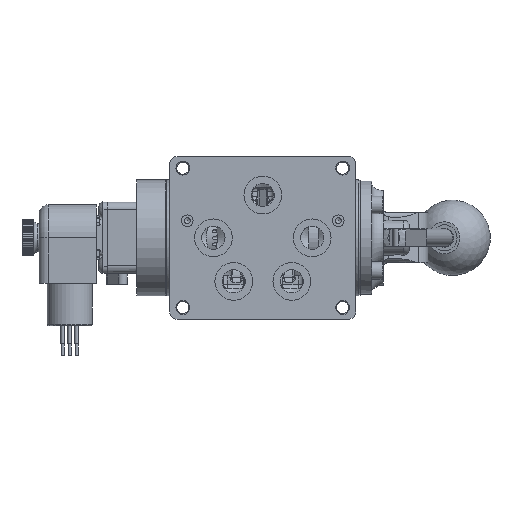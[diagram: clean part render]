
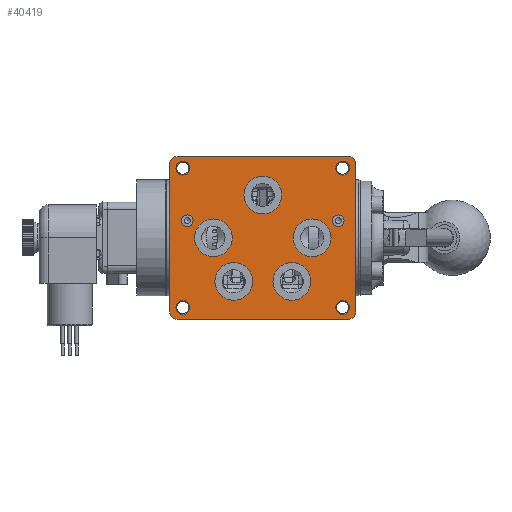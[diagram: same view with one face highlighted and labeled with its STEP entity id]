
A CAD part, front view. The second image highlights one B-rep face of the part: STEP entity #40419.
In plain terms, the highlighted planar face has unit normal (0, -1, 0).
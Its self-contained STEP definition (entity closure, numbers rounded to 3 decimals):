
#2462=FACE_BOUND('',#7745,.T.);
#2463=FACE_BOUND('',#7746,.T.);
#2464=FACE_BOUND('',#7747,.T.);
#2465=FACE_BOUND('',#7748,.T.);
#2466=FACE_BOUND('',#7749,.T.);
#2467=FACE_BOUND('',#7750,.T.);
#2468=FACE_BOUND('',#7751,.T.);
#2469=FACE_BOUND('',#7752,.T.);
#2470=FACE_BOUND('',#7753,.T.);
#2471=FACE_BOUND('',#7754,.T.);
#2472=FACE_BOUND('',#7755,.T.);
#3250=PLANE('',#44021);
#5249=FACE_OUTER_BOUND('',#7744,.T.);
#7744=EDGE_LOOP('',(#33242,#33243,#33244,#33245,#33246,#33247,#33248,#33249));
#7745=EDGE_LOOP('',(#33250));
#7746=EDGE_LOOP('',(#33251));
#7747=EDGE_LOOP('',(#33252));
#7748=EDGE_LOOP('',(#33253));
#7749=EDGE_LOOP('',(#33254));
#7750=EDGE_LOOP('',(#33255));
#7751=EDGE_LOOP('',(#33256));
#7752=EDGE_LOOP('',(#33257));
#7753=EDGE_LOOP('',(#33258));
#7754=EDGE_LOOP('',(#33259));
#7755=EDGE_LOOP('',(#33260));
#9580=CIRCLE('',#43468,0.397);
#9581=CIRCLE('',#43471,0.397);
#9802=CIRCLE('',#44016,0.397);
#9803=CIRCLE('',#44019,0.397);
#9804=CIRCLE('',#44022,0.318);
#9805=CIRCLE('',#44023,0.318);
#9806=CIRCLE('',#44024,1.031);
#9807=CIRCLE('',#44025,1.031);
#9808=CIRCLE('',#44026,1.031);
#9809=CIRCLE('',#44027,1.031);
#9810=CIRCLE('',#44028,1.031);
#9811=CIRCLE('',#44029,0.381);
#9812=CIRCLE('',#44030,0.381);
#9813=CIRCLE('',#44031,0.381);
#9814=CIRCLE('',#44032,0.381);
#11625=LINE('',#65736,#14042);
#11655=LINE('',#65991,#14072);
#12157=LINE('',#80144,#14574);
#12160=LINE('',#80151,#14577);
#14042=VECTOR('',#51211,1.);
#14072=VECTOR('',#51313,1.);
#14574=VECTOR('',#52911,1.);
#14577=VECTOR('',#52920,1.);
#17023=VERTEX_POINT('',#65734);
#17024=VERTEX_POINT('',#65735);
#17078=VERTEX_POINT('',#65984);
#17079=VERTEX_POINT('',#65985);
#17080=VERTEX_POINT('',#65990);
#17936=VERTEX_POINT('',#80139);
#17937=VERTEX_POINT('',#80143);
#17938=VERTEX_POINT('',#80147);
#17939=VERTEX_POINT('',#80153);
#17940=VERTEX_POINT('',#80155);
#17941=VERTEX_POINT('',#80157);
#17942=VERTEX_POINT('',#80159);
#17943=VERTEX_POINT('',#80161);
#17944=VERTEX_POINT('',#80163);
#17945=VERTEX_POINT('',#80165);
#17946=VERTEX_POINT('',#80167);
#17947=VERTEX_POINT('',#80169);
#17948=VERTEX_POINT('',#80171);
#17949=VERTEX_POINT('',#80173);
#21740=EDGE_CURVE('',#17023,#17024,#11625,.T.);
#21806=EDGE_CURVE('',#17078,#17079,#9580,.T.);
#21809=EDGE_CURVE('',#17079,#17080,#11655,.T.);
#21813=EDGE_CURVE('',#17080,#17023,#9581,.T.);
#23206=EDGE_CURVE('',#17024,#17936,#9802,.T.);
#23208=EDGE_CURVE('',#17936,#17937,#12157,.T.);
#23210=EDGE_CURVE('',#17937,#17938,#9803,.T.);
#23212=EDGE_CURVE('',#17938,#17078,#12160,.T.);
#23213=EDGE_CURVE('',#17939,#17939,#9804,.T.);
#23214=EDGE_CURVE('',#17940,#17940,#9805,.T.);
#23215=EDGE_CURVE('',#17941,#17941,#9806,.T.);
#23216=EDGE_CURVE('',#17942,#17942,#9807,.T.);
#23217=EDGE_CURVE('',#17943,#17943,#9808,.T.);
#23218=EDGE_CURVE('',#17944,#17944,#9809,.T.);
#23219=EDGE_CURVE('',#17945,#17945,#9810,.T.);
#23220=EDGE_CURVE('',#17946,#17946,#9811,.T.);
#23221=EDGE_CURVE('',#17947,#17947,#9812,.T.);
#23222=EDGE_CURVE('',#17948,#17948,#9813,.T.);
#23223=EDGE_CURVE('',#17949,#17949,#9814,.T.);
#33242=ORIENTED_EDGE('',*,*,#23206,.T.);
#33243=ORIENTED_EDGE('',*,*,#23208,.T.);
#33244=ORIENTED_EDGE('',*,*,#23210,.T.);
#33245=ORIENTED_EDGE('',*,*,#23212,.T.);
#33246=ORIENTED_EDGE('',*,*,#21806,.T.);
#33247=ORIENTED_EDGE('',*,*,#21809,.T.);
#33248=ORIENTED_EDGE('',*,*,#21813,.T.);
#33249=ORIENTED_EDGE('',*,*,#21740,.T.);
#33250=ORIENTED_EDGE('',*,*,#23213,.T.);
#33251=ORIENTED_EDGE('',*,*,#23214,.T.);
#33252=ORIENTED_EDGE('',*,*,#23215,.T.);
#33253=ORIENTED_EDGE('',*,*,#23216,.T.);
#33254=ORIENTED_EDGE('',*,*,#23217,.T.);
#33255=ORIENTED_EDGE('',*,*,#23218,.T.);
#33256=ORIENTED_EDGE('',*,*,#23219,.T.);
#33257=ORIENTED_EDGE('',*,*,#23220,.T.);
#33258=ORIENTED_EDGE('',*,*,#23221,.T.);
#33259=ORIENTED_EDGE('',*,*,#23222,.T.);
#33260=ORIENTED_EDGE('',*,*,#23223,.T.);
#40419=ADVANCED_FACE('',(#5249,#2462,#2463,#2464,#2465,#2466,#2467,#2468,
#2469,#2470,#2471,#2472),#3250,.T.);
#43468=AXIS2_PLACEMENT_3D('',#65986,#51307,#51308);
#43471=AXIS2_PLACEMENT_3D('',#65997,#51319,#51320);
#44016=AXIS2_PLACEMENT_3D('',#80140,#52906,#52907);
#44019=AXIS2_PLACEMENT_3D('',#80148,#52915,#52916);
#44021=AXIS2_PLACEMENT_3D('',#80152,#52921,#52922);
#44022=AXIS2_PLACEMENT_3D('',#80154,#52923,#52924);
#44023=AXIS2_PLACEMENT_3D('',#80156,#52925,#52926);
#44024=AXIS2_PLACEMENT_3D('',#80158,#52927,#52928);
#44025=AXIS2_PLACEMENT_3D('',#80160,#52929,#52930);
#44026=AXIS2_PLACEMENT_3D('',#80162,#52931,#52932);
#44027=AXIS2_PLACEMENT_3D('',#80164,#52933,#52934);
#44028=AXIS2_PLACEMENT_3D('',#80166,#52935,#52936);
#44029=AXIS2_PLACEMENT_3D('',#80168,#52937,#52938);
#44030=AXIS2_PLACEMENT_3D('',#80170,#52939,#52940);
#44031=AXIS2_PLACEMENT_3D('',#80172,#52941,#52942);
#44032=AXIS2_PLACEMENT_3D('',#80174,#52943,#52944);
#51211=DIRECTION('',(0.,0.,1.));
#51307=DIRECTION('center_axis',(0.,-1.,0.));
#51308=DIRECTION('ref_axis',(-0.707,0.,-0.707));
#51313=DIRECTION('',(1.,0.,0.));
#51319=DIRECTION('center_axis',(0.,-1.,0.));
#51320=DIRECTION('ref_axis',(0.707,0.,-0.707));
#52906=DIRECTION('center_axis',(0.,-1.,0.));
#52907=DIRECTION('ref_axis',(0.707,0.,0.707));
#52911=DIRECTION('',(-1.,0.,0.));
#52915=DIRECTION('center_axis',(0.,-1.,0.));
#52916=DIRECTION('ref_axis',(-0.707,0.,0.707));
#52920=DIRECTION('',(0.,0.,-1.));
#52921=DIRECTION('center_axis',(0.,-1.,0.));
#52922=DIRECTION('ref_axis',(0.,0.,-1.));
#52923=DIRECTION('center_axis',(0.,1.,0.));
#52924=DIRECTION('ref_axis',(1.,0.,0.));
#52925=DIRECTION('center_axis',(0.,1.,0.));
#52926=DIRECTION('ref_axis',(1.,0.,0.));
#52927=DIRECTION('center_axis',(0.,1.,0.));
#52928=DIRECTION('ref_axis',(1.,0.,0.));
#52929=DIRECTION('center_axis',(0.,1.,0.));
#52930=DIRECTION('ref_axis',(1.,0.,0.));
#52931=DIRECTION('center_axis',(0.,1.,0.));
#52932=DIRECTION('ref_axis',(1.,0.,0.));
#52933=DIRECTION('center_axis',(0.,1.,0.));
#52934=DIRECTION('ref_axis',(1.,0.,0.));
#52935=DIRECTION('center_axis',(0.,1.,0.));
#52936=DIRECTION('ref_axis',(1.,0.,0.));
#52937=DIRECTION('center_axis',(0.,1.,0.));
#52938=DIRECTION('ref_axis',(1.,0.,0.));
#52939=DIRECTION('center_axis',(0.,1.,0.));
#52940=DIRECTION('ref_axis',(1.,0.,0.));
#52941=DIRECTION('center_axis',(0.,1.,0.));
#52942=DIRECTION('ref_axis',(1.,0.,0.));
#52943=DIRECTION('center_axis',(0.,1.,0.));
#52944=DIRECTION('ref_axis',(1.,0.,0.));
#65734=CARTESIAN_POINT('',(5.08,-3.335,-4.048));
#65735=CARTESIAN_POINT('',(5.08,-3.335,4.048));
#65736=CARTESIAN_POINT('',(5.08,-3.335,-2.223));
#65984=CARTESIAN_POINT('',(-5.08,-3.335,-4.048));
#65985=CARTESIAN_POINT('',(-4.683,-3.335,-4.445));
#65986=CARTESIAN_POINT('Origin',(-4.683,-3.335,-4.048));
#65990=CARTESIAN_POINT('',(4.683,-3.335,-4.445));
#65991=CARTESIAN_POINT('',(0.087,-3.335,-4.445));
#65997=CARTESIAN_POINT('Origin',(4.683,-3.335,-4.048));
#80139=CARTESIAN_POINT('',(4.683,-3.335,4.445));
#80140=CARTESIAN_POINT('Origin',(4.683,-3.335,4.048));
#80143=CARTESIAN_POINT('',(-4.683,-3.335,4.445));
#80144=CARTESIAN_POINT('',(5.167,-3.335,4.445));
#80147=CARTESIAN_POINT('',(-5.08,-3.335,4.048));
#80148=CARTESIAN_POINT('Origin',(-4.683,-3.335,4.048));
#80151=CARTESIAN_POINT('',(-5.08,-3.335,2.223));
#80152=CARTESIAN_POINT('Origin',(5.254,-3.335,0.));
#80153=CARTESIAN_POINT('',(3.81,-3.335,0.935));
#80154=CARTESIAN_POINT('Origin',(4.128,-3.335,0.935));
#80155=CARTESIAN_POINT('',(-4.445,-3.335,0.935));
#80156=CARTESIAN_POINT('Origin',(-4.128,-3.335,0.935));
#80157=CARTESIAN_POINT('',(0.556,-3.335,-2.38));
#80158=CARTESIAN_POINT('Origin',(1.588,-3.335,-2.38));
#80159=CARTESIAN_POINT('',(-2.619,-3.335,-2.38));
#80160=CARTESIAN_POINT('Origin',(-1.588,-3.335,-2.38));
#80161=CARTESIAN_POINT('',(-1.031,-3.335,2.339));
#80162=CARTESIAN_POINT('Origin',(0.,-3.335,2.339));
#80163=CARTESIAN_POINT('',(1.668,-3.335,0.));
#80164=CARTESIAN_POINT('Origin',(2.699,-3.335,0.));
#80165=CARTESIAN_POINT('',(-3.73,-3.335,0.));
#80166=CARTESIAN_POINT('Origin',(-2.699,-3.335,0.));
#80167=CARTESIAN_POINT('',(3.985,-3.335,3.81));
#80168=CARTESIAN_POINT('Origin',(4.366,-3.335,3.81));
#80169=CARTESIAN_POINT('',(3.985,-3.335,-3.81));
#80170=CARTESIAN_POINT('Origin',(4.366,-3.335,-3.81));
#80171=CARTESIAN_POINT('',(-4.747,-3.335,-3.81));
#80172=CARTESIAN_POINT('Origin',(-4.366,-3.335,-3.81));
#80173=CARTESIAN_POINT('',(-4.747,-3.335,3.81));
#80174=CARTESIAN_POINT('Origin',(-4.366,-3.335,3.81));
